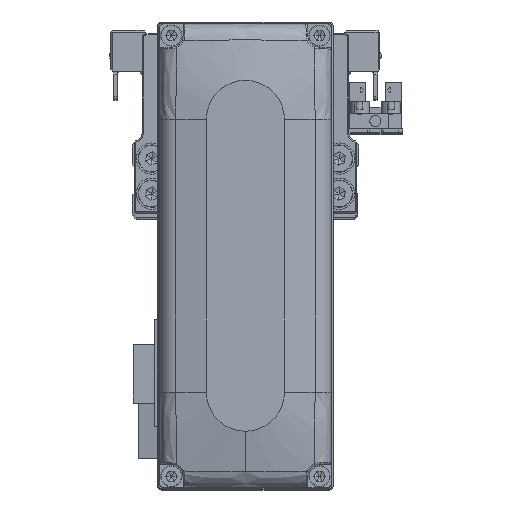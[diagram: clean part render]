
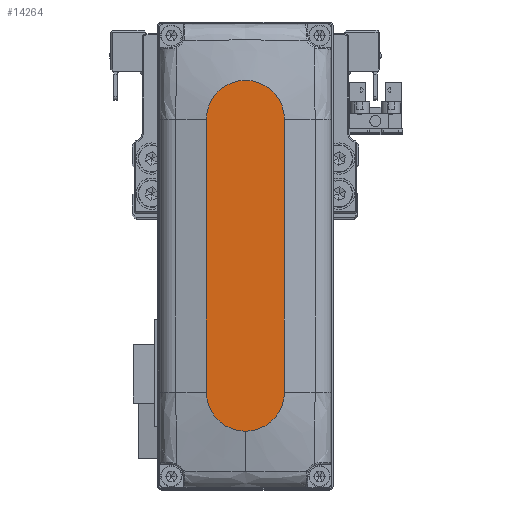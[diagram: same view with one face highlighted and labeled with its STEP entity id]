
A CAD part, top view. The second image highlights one B-rep face of the part: STEP entity #14264.
In plain terms, the highlighted planar face has unit normal (0, 0, 1).
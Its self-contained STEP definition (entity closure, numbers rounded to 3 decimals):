
#319 = EDGE_CURVE ( 'NONE', #32997, #7057, #12481, .T. ) ;
#770 = ORIENTED_EDGE ( 'NONE', *, *, #319, .T. ) ;
#1190 = DIRECTION ( 'NONE',  ( -1., 0., 0. ) ) ;
#1462 = VECTOR ( 'NONE', #3141, 1000. ) ;
#1895 = DIRECTION ( 'NONE',  ( 1., 0., 0. ) ) ;
#1909 = DIRECTION ( 'NONE',  ( 0., 0., 1. ) ) ;
#2853 = VECTOR ( 'NONE', #1190, 1000. ) ;
#3141 = DIRECTION ( 'NONE',  ( 1., 0., 0. ) ) ;
#3569 = AXIS2_PLACEMENT_3D ( 'NONE', #27588, #1909, #13348 ) ;
#4438 = AXIS2_PLACEMENT_3D ( 'NONE', #23065, #34465, #8810 ) ;
#5648 = EDGE_CURVE ( 'NONE', #7057, #17144, #15437, .T. ) ;
#7057 = VERTEX_POINT ( 'NONE', #34358 ) ;
#8451 = CARTESIAN_POINT ( 'NONE',  ( 0., 0., 28. ) ) ;
#8810 = DIRECTION ( 'NONE',  ( 1., 0., 0. ) ) ;
#10977 = VERTEX_POINT ( 'NONE', #17827 ) ;
#11856 = AXIS2_PLACEMENT_3D ( 'NONE', #16136, #27578, #1895 ) ;
#12481 = CIRCLE ( 'NONE', #11856, 10. ) ;
#13348 = DIRECTION ( 'NONE',  ( 1., 0., 0. ) ) ;
#14264 = ADVANCED_FACE ( 'NONE', ( #22701 ), #34102, .T. ) ;
#15437 = LINE ( 'NONE', #26872, #2853 ) ;
#16136 = CARTESIAN_POINT ( 'NONE',  ( 35., 0., 28. ) ) ;
#16389 = CARTESIAN_POINT ( 'NONE',  ( -35., -10., 28. ) ) ;
#16961 = EDGE_CURVE ( 'NONE', #10977, #32997, #19725, .T. ) ;
#17144 = VERTEX_POINT ( 'NONE', #29382 ) ;
#17378 = LINE ( 'NONE', #28806, #1462 ) ;
#17827 = CARTESIAN_POINT ( 'NONE',  ( 35., -10., 28. ) ) ;
#19069 = VERTEX_POINT ( 'NONE', #16389 ) ;
#19725 = CIRCLE ( 'NONE', #3569, 10. ) ;
#19884 = DIRECTION ( 'NONE',  ( 0., 0., 1. ) ) ;
#20581 = CIRCLE ( 'NONE', #4438, 10. ) ;
#22701 = FACE_OUTER_BOUND ( 'NONE', #28540, .T. ) ;
#23065 = CARTESIAN_POINT ( 'NONE',  ( -35., 0., 28. ) ) ;
#26036 = ORIENTED_EDGE ( 'NONE', *, *, #30303, .T. ) ;
#26872 = CARTESIAN_POINT ( 'NONE',  ( -35., 10., 28. ) ) ;
#27578 = DIRECTION ( 'NONE',  ( 0., 0., 1. ) ) ;
#27588 = CARTESIAN_POINT ( 'NONE',  ( 35., 0., 28. ) ) ;
#28540 = EDGE_LOOP ( 'NONE', ( #36925, #26036, #35851, #32434, #770 ) ) ;
#28806 = CARTESIAN_POINT ( 'NONE',  ( -35., -10., 28. ) ) ;
#29382 = CARTESIAN_POINT ( 'NONE',  ( -35., 10., 28. ) ) ;
#30303 = EDGE_CURVE ( 'NONE', #17144, #19069, #20581, .T. ) ;
#30718 = EDGE_CURVE ( 'NONE', #19069, #10977, #17378, .T. ) ;
#31302 = DIRECTION ( 'NONE',  ( 1., 0., 0. ) ) ;
#32434 = ORIENTED_EDGE ( 'NONE', *, *, #16961, .T. ) ;
#32853 = CARTESIAN_POINT ( 'NONE',  ( 45., 0., 28. ) ) ;
#32997 = VERTEX_POINT ( 'NONE', #32853 ) ;
#34102 = PLANE ( 'NONE',  #35730 ) ;
#34358 = CARTESIAN_POINT ( 'NONE',  ( 35., 10., 28. ) ) ;
#34465 = DIRECTION ( 'NONE',  ( 0., 0., 1. ) ) ;
#35730 = AXIS2_PLACEMENT_3D ( 'NONE', #8451, #19884, #31302 ) ;
#35851 = ORIENTED_EDGE ( 'NONE', *, *, #30718, .T. ) ;
#36925 = ORIENTED_EDGE ( 'NONE', *, *, #5648, .T. ) ;
